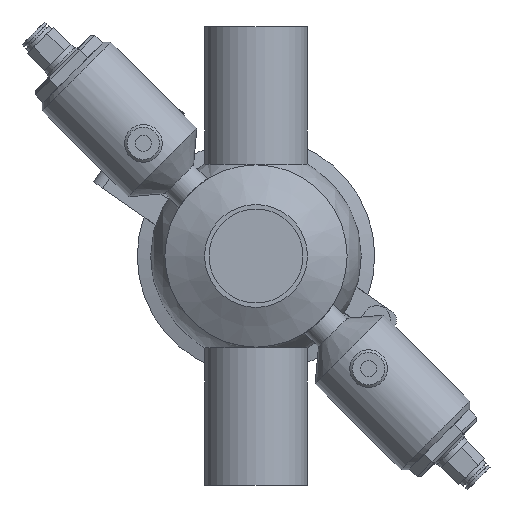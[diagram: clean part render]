
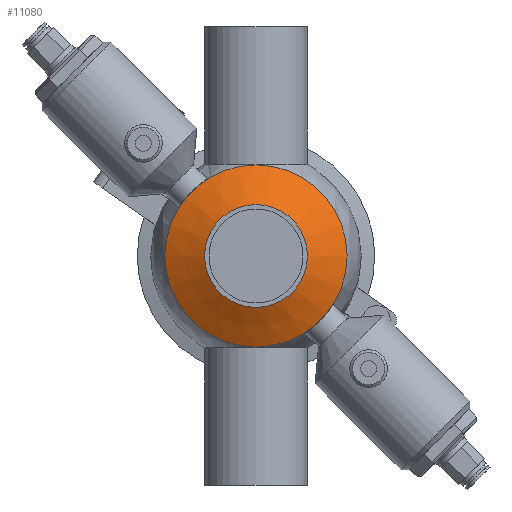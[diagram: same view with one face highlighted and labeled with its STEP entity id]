
A CAD part, front view. The second image highlights one B-rep face of the part: STEP entity #11080.
In plain terms, the highlighted conical face has half-angle 60 degrees and reference radius 33.75 mm.
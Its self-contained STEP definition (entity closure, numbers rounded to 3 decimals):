
#1203 = DIRECTION ( 'NONE',  ( 0., 0., 1. ) ) ;
#1823 = VERTEX_POINT ( 'NONE', #9952 ) ;
#3347 = DIRECTION ( 'NONE',  ( 0., 1., 0. ) ) ;
#5310 = EDGE_CURVE ( 'NONE', #1823, #1823, #8483, .T. ) ;
#5978 = CIRCLE ( 'NONE', #16608, 19.05 ) ;
#6009 = CONICAL_SURFACE ( 'NONE', #11846, 33.75, 1.047 ) ;
#6332 = EDGE_LOOP ( 'NONE', ( #8411 ) ) ;
#7848 = DIRECTION ( 'NONE',  ( 0., 0., 1. ) ) ;
#8109 = EDGE_CURVE ( 'NONE', #22221, #22221, #5978, .T. ) ;
#8411 = ORIENTED_EDGE ( 'NONE', *, *, #5310, .F. ) ;
#8483 = CIRCLE ( 'NONE', #21661, 33.75 ) ;
#9797 = CARTESIAN_POINT ( 'NONE',  ( 0., -40., 0. ) ) ;
#9952 = CARTESIAN_POINT ( 'NONE',  ( 0., -40., 33.75 ) ) ;
#11080 = ADVANCED_FACE ( 'NONE', ( #21166, #20940 ), #6009, .T. ) ;
#11846 = AXIS2_PLACEMENT_3D ( 'NONE', #20824, #19228, #22541 ) ;
#14954 = DIRECTION ( 'NONE',  ( 0., 1., 0. ) ) ;
#16608 = AXIS2_PLACEMENT_3D ( 'NONE', #17226, #3347, #1203 ) ;
#17226 = CARTESIAN_POINT ( 'NONE',  ( 0., -48.487, 0. ) ) ;
#19228 = DIRECTION ( 'NONE',  ( 0., 1., 0. ) ) ;
#20512 = CARTESIAN_POINT ( 'NONE',  ( 0., -48.487, 19.05 ) ) ;
#20824 = CARTESIAN_POINT ( 'NONE',  ( 0., -40., 0. ) ) ;
#20940 = FACE_OUTER_BOUND ( 'NONE', #6332, .T. ) ;
#21166 = FACE_BOUND ( 'NONE', #22373, .T. ) ;
#21661 = AXIS2_PLACEMENT_3D ( 'NONE', #9797, #14954, #7848 ) ;
#22221 = VERTEX_POINT ( 'NONE', #20512 ) ;
#22373 = EDGE_LOOP ( 'NONE', ( #22506 ) ) ;
#22506 = ORIENTED_EDGE ( 'NONE', *, *, #8109, .T. ) ;
#22541 = DIRECTION ( 'NONE',  ( 0., 0., 1. ) ) ;
